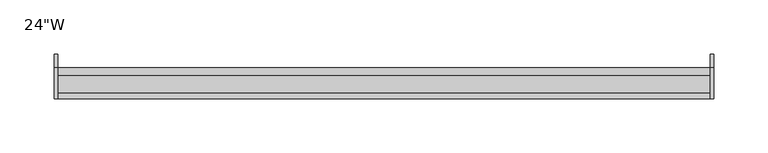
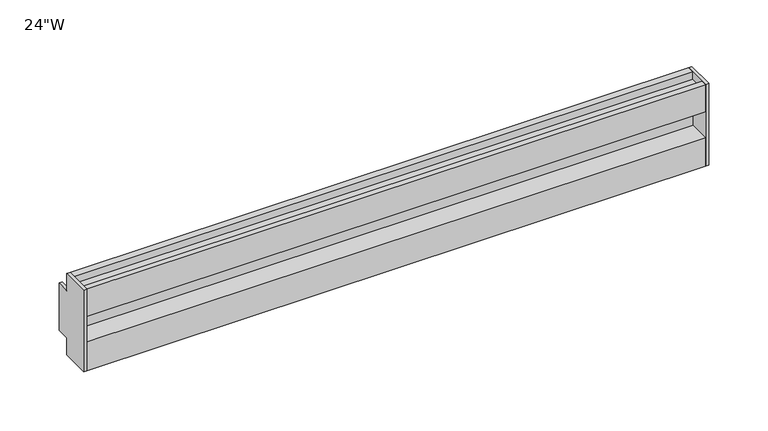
"""IFC4 building model written with IfcOpenShell, lengths in millimetres: furniture geometry."""

from ifc_helpers import new_model, si_unit, frame, origin, place, context, project, spatial, polyline, outline, extrude, source, transform, mapped, element, save


def furniture_1ed09c9c(model_context):
    return source(origin(), model_context, "Body", "SweptSolid", [
        extrude(outline(polyline([(0.0, 1298.8798015), (-12.8269987, 1298.8798015), (-12.8269987, 1281.4173), (-41.275, 1281.4173), (-41.275, 1365.5548), (-12.8269987, 1365.5548), (-12.8269987, 1347.7748014), (0.0, 1347.7748014), (0.0, 1298.8798015)])), frame((301.6249999, 0.0, 0.0), z_axis=(1.0, 0.0, 0.0), x_axis=(0.0, 1.0, 0.0)), (0.0, 0.0, 1.0), 3.1750001),
        extrude(outline(polyline([(-12.8269987, 1347.7748014), (0.0, 1347.7748014), (0.0, 1298.8798015), (-12.8269987, 1298.8798015), (-12.8269987, 1281.4173), (-41.275, 1281.4173), (-41.275, 1365.5548), (-12.8269987, 1365.5548), (-12.8269987, 1347.7748014)])), frame((-304.8, 0.0, 0.0), z_axis=(1.0, 0.0, 0.0), x_axis=(0.0, 1.0, 0.0)), (0.0, 0.0, 1.0), 3.1750001),
        extrude(outline(polyline([(-12.8269987, 1365.5548), (-12.8269987, 1281.4173), (-41.275, 1281.4173), (-41.275, 1310.8813037), (-20.6375, 1310.8813037), (-20.6375, 1337.4716647), (-41.275, 1337.4716647), (-41.275, 1365.5548), (-35.9409983, 1365.5548), (-35.9409983, 1358.1253018), (-19.6849979, 1358.1253018), (-19.6849979, 1365.5548), (-12.8269987, 1365.5548)])), frame((-301.6249999, 0.0, 0.0), z_axis=(1.0, 0.0, 0.0), x_axis=(0.0, 1.0, 0.0)), (0.0, 0.0, 1.0), 603.2499998),
    ])


if __name__ == "__main__":
    model = new_model("IFC4")
    model_context = context("Model", 3, world=origin())
    ifc_project = project(units=[si_unit("LENGTHUNIT", "METRE", prefix="MILLI")], contexts=[model_context])
    site = spatial("IfcSite", under=ifc_project)
    building = spatial("IfcBuilding", under=site)
    placement = place(None, origin())
    furniture_shape = furniture_1ed09c9c(model_context)
    element("IfcFurniture", 1, ObjectType="HermanMiller_CoStruc_C1172_EquipmentRailSystemsMounted : 24\"W", at=placement, inside=building, context=model_context, shape_type="MappedRepresentation", body=[
        mapped(furniture_shape, transform((0.0, 0.0, 0.0), x_axis=(1.0, 0.0, 0.0), y_axis=(0.0, 1.0, 0.0), z_axis=(0.0, 0.0, 1.0))),
    ])
    save(model, "model.ifc")
